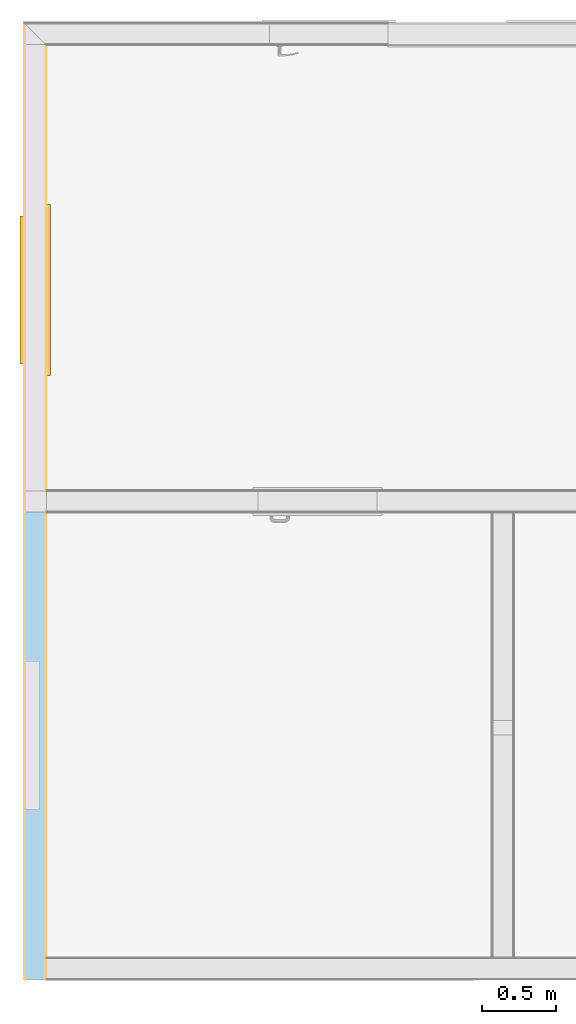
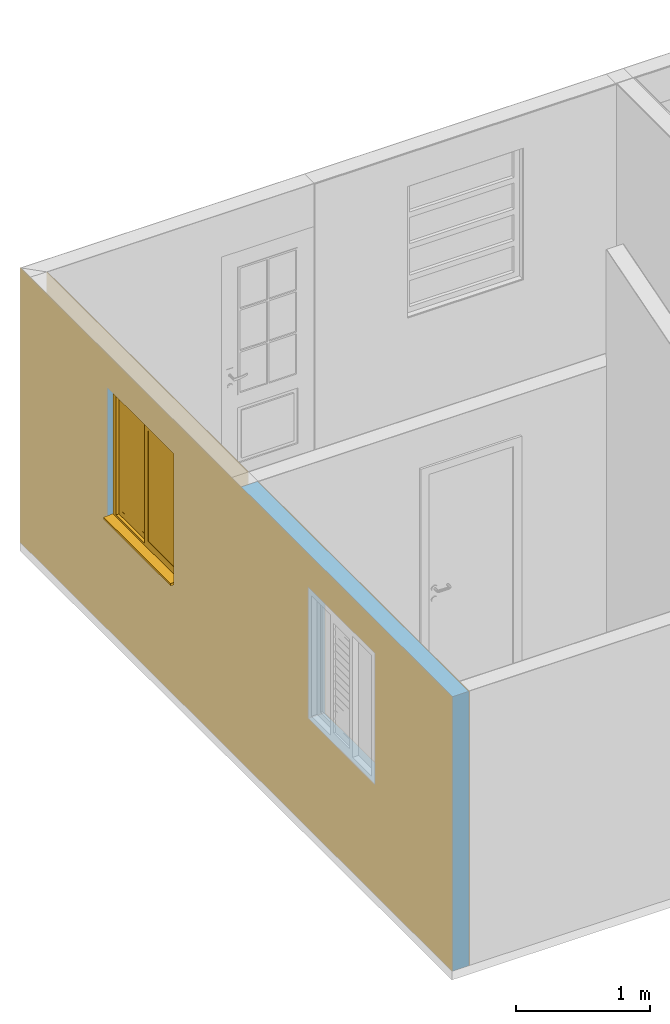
# One storey, part 6 of 7: 1 window, 2 openings, 1 element without a shape of its own, plus 3 elements that do not belong to this part.
"""IFC2X3 building model written with IfcOpenShell, lengths in millimetres."""

from ifc_helpers import new_model, entity, si_unit, converted_unit, derived_unit, money_unit, direction, frame, origin_with_axes, origin_2d_with_axis, place, context, subcontext, project, spatial, polyline, rectangle, outline, extrude, boolean, open_shell, faceted_brep, surface_model, material, type_object, element, fill, aggregate, save


model = new_model("IFC2X3")

# Units and contexts
model_context = context("Model", 3, precision=0.01, world=origin_with_axes(), true_north=direction((0.0, 1.0)))
body_context = subcontext(model_context, "Body", "Model", "MODEL_VIEW")
ifc_project = project(units=[si_unit("LENGTHUNIT", "METRE", prefix="MILLI"), si_unit("AREAUNIT", "SQUARE_METRE"), si_unit("VOLUMEUNIT", "CUBIC_METRE"), converted_unit("PLANEANGLEUNIT", "DEGREE", entity("IfcPlaneAngleMeasure", 0.0174532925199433), si_unit("PLANEANGLEUNIT", "RADIAN"), dimensions=[0, 0, 0, 0, 0, 0, 0]), money_unit("USD"), converted_unit("TIMEUNIT", "Year", entity("IfcTimeMeasure", 31557600.0), si_unit("TIMEUNIT", "SECOND"), dimensions=[0, 0, 1, 0, 0, 0, 0]), si_unit("MASSUNIT", "GRAM", prefix="KILO"), si_unit("THERMODYNAMICTEMPERATUREUNIT", "DEGREE_CELSIUS"), si_unit("LUMINOUSINTENSITYUNIT", "LUMEN"), si_unit("ENERGYUNIT", "JOULE", prefix="MEGA"), derived_unit("THERMALCONDUCTANCEUNIT", [(si_unit("POWERUNIT", "WATT"), 1), (si_unit("LENGTHUNIT", "METRE"), -1), (si_unit("THERMODYNAMICTEMPERATUREUNIT", "KELVIN"), -1)]), derived_unit("SPECIFICHEATCAPACITYUNIT", [(si_unit("ENERGYUNIT", "JOULE"), 1), (si_unit("MASSUNIT", "GRAM", prefix="KILO"), -1), (si_unit("THERMODYNAMICTEMPERATUREUNIT", "KELVIN"), -1)]), derived_unit("MASSDENSITYUNIT", [(si_unit("MASSUNIT", "GRAM", prefix="KILO"), 1), (si_unit("VOLUMEUNIT", "CUBIC_METRE"), -1)])], contexts=[model_context])

# Site, building, storey
site_placement = place(None, origin_with_axes())
site = spatial("IfcSite", under=ifc_project, at=site_placement, Name="Local", CompositionType="ELEMENT")
building_placement = place(site_placement, origin_with_axes())
building = spatial("IfcBuilding", under=site, at=building_placement, Name="Construção", CompositionType="ELEMENT")
storey_placement = place(building_placement, origin_with_axes())
storey = spatial("IfcBuildingStorey", under=building, at=storey_placement, Name="Pavimento Térreo", CompositionType="ELEMENT", Elevation=0.0)

# Window
window_style = type_object("IfcWindowStyle", Name="Janela 27", ConstructionType="NOTDEFINED", OperationType="DOUBLE_PANEL_VERTICAL", ParameterTakesPrecedence=False, Sizeable=False)
wall_placement = place(storey_placement, frame((0.0, 6450.000000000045, 0.0), z_axis=(0.0, 0.0, 1.0), x_axis=(0.0, -1.0, 0.0)))
opening_2_placement = place(wall_placement, frame((1800.000000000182, 0.0, 1000.0), z_axis=(0.0, 0.0, 1.0), x_axis=(1.0, 0.0, 0.0)))
window_placement = place(opening_2_placement, frame((500.0, 0.0, 0.0), z_axis=(0.0, 0.0, 1.0), x_axis=(-1.0, 0.0, 0.0)))
window = element("IfcWindow", 1, at=window_placement, inside=storey, type_object=window_style, Name="J02", ObjectType="WINDOW", OverallHeight=1200.0, OverallWidth=1000.0, context=body_context, shape_type="SurfaceModel", body=[
    faceted_brep([(0.0, -149.9999999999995, 0.0), (0.0, -99.99999999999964, 0.0), (1000.0, -100.0000000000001, 0.0), (1000.0, -149.9999999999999, 0.0), (0.0, -149.9999999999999, 1200.0), (0.0, -99.99999999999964, 1200.0), (1000.0, -100.0000000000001, 1200.0), (25.00000000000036, -99.99999999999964, 1175.0), (25.00000000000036, -99.99999999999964, 24.99999999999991), (974.9999999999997, -100.0000000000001, 24.99999999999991), (974.9999999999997, -100.0000000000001, 1175.0), (1000.0, -150.0000000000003, 1200.0), (974.9999999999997, -149.9999999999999, 24.99999999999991), (25.00000000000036, -149.9999999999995, 24.99999999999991), (25.00000000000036, -149.9999999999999, 1175.0), (974.9999999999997, -150.0000000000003, 1175.0)], [[[0, 1, 2, 3]], [[4, 5, 1, 0]], [[2, 1, 5, 6], [7, 8, 9, 10]], [[3, 2, 6, 11]], [[4, 0, 3, 11], [12, 13, 14, 15]], [[11, 6, 5, 4]], [[13, 8, 7, 14]], [[12, 9, 8, 13]], [[15, 10, 9, 12]], [[14, 7, 10, 15]]]),
    faceted_brep([(25.00000000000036, -174.9999999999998, 24.99999999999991), (-75.00000000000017, -174.9999999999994, -75.00000000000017), (-75.00000000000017, -149.9999999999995, -75.00000000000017), (25.00000000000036, -149.9999999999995, 24.99999999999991), (-75.00000000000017, -174.9999999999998, 1275.0), (25.00000000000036, -174.9999999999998, 1175.0), (-75.00000000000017, -149.9999999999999, 1275.0), (25.00000000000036, -149.9999999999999, 1175.0)], [[[0, 1, 2, 3]], [[4, 1, 0, 5]], [[1, 4, 6, 2]], [[3, 2, 6, 7]], [[5, 0, 3, 7]], [[4, 5, 7, 6]]]),
    faceted_brep([(974.9999999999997, -175.0000000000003, 1175.0), (1075.0, -175.0000000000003, 1275.0), (1075.0, -150.0000000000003, 1275.0), (974.9999999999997, -150.0000000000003, 1175.0), (1075.0, -174.9999999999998, -75.00000000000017), (974.9999999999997, -174.9999999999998, 24.99999999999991), (1075.0, -149.9999999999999, -75.00000000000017), (974.9999999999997, -149.9999999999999, 24.99999999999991)], [[[0, 1, 2, 3]], [[4, 1, 0, 5]], [[1, 4, 6, 2]], [[3, 2, 6, 7]], [[5, 0, 3, 7]], [[4, 5, 7, 6]]]),
    faceted_brep([(25.00000000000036, -174.9999999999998, 1175.0), (-75.00000000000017, -174.9999999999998, 1275.0), (-75.00000000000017, -149.9999999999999, 1275.0), (25.00000000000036, -149.9999999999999, 1175.0), (1075.0, -175.0000000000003, 1275.0), (974.9999999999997, -175.0000000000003, 1175.0), (1075.0, -150.0000000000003, 1275.0), (974.9999999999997, -150.0000000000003, 1175.0)], [[[0, 1, 2, 3]], [[4, 1, 0, 5]], [[1, 4, 6, 2]], [[3, 2, 6, 7]], [[5, 0, 3, 7]], [[4, 5, 7, 6]]]),
    faceted_brep([(0.0, -99.99999999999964, 1153.0), (46.99999999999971, -99.99999999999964, 1153.0), (46.99999999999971, -49.99999999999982, 1153.0), (0.0, -49.99999999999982, 1153.0), (46.99999999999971, -99.99999999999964, 46.99999999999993), (0.0, -99.99999999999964, 46.99999999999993), (46.99999999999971, -49.99999999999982, 46.99999999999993), (0.0, -49.99999999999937, 46.99999999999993)], [[[0, 1, 2, 3]], [[4, 1, 0, 5]], [[1, 4, 6, 2]], [[3, 2, 6, 7]], [[5, 0, 3, 7]], [[4, 5, 7, 6]]]),
    faceted_brep([(1000.0, -100.0000000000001, 46.99999999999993), (953.0000000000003, -100.0000000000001, 46.99999999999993), (953.0000000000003, -49.99999999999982, 46.99999999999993), (1000.0, -49.99999999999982, 46.99999999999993), (953.0000000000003, -100.0000000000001, 1153.0), (1000.0, -100.0000000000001, 1153.0), (953.0000000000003, -50.00000000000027, 1153.0), (1000.0, -50.00000000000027, 1153.0)], [[[0, 1, 2, 3]], [[4, 1, 0, 5]], [[1, 4, 6, 2]], [[3, 2, 6, 7]], [[5, 0, 3, 7]], [[4, 5, 7, 6]]]),
    faceted_brep([(1000.0, -100.0000000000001, 1153.0), (953.0000000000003, -100.0000000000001, 1153.0), (953.0000000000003, -50.00000000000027, 1153.0), (1000.0, -50.00000000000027, 1153.0), (46.99999999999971, -99.99999999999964, 1153.0), (1000.0, -100.0000000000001, 1200.0), (0.0, -99.99999999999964, 1200.0), (0.0, -99.99999999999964, 1153.0), (46.99999999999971, -49.99999999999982, 1153.0), (0.0, -49.99999999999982, 1153.0), (0.0, -49.99999999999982, 1200.0), (1000.0, -50.00000000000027, 1200.0)], [[[0, 1, 2, 3]], [[4, 1, 0, 5, 6, 7]], [[1, 4, 8, 2]], [[3, 2, 8, 9, 10, 11]], [[5, 0, 3, 11]], [[6, 5, 11, 10]], [[7, 6, 10, 9]], [[4, 7, 9, 8]]]),
    faceted_brep([(474.9999999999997, -100.0000000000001, 1103.0), (474.9999999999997, -100.0000000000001, 1153.0), (474.9999999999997, -74.99999999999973, 1153.0), (474.9999999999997, -74.99999999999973, 1103.0), (953.0000000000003, -100.0000000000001, 1153.0), (525.0000000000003, -100.0000000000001, 1103.0), (903.0000000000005, -100.0000000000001, 1103.0), (953.0000000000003, -100.0000000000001, 1103.0), (953.0000000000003, -75.00000000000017, 1153.0), (953.0000000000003, -75.00000000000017, 1103.0), (903.0000000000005, -75.00000000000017, 1103.0), (525.0000000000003, -74.99999999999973, 1103.0)], [[[0, 1, 2, 3]], [[4, 1, 0, 5, 6, 7]], [[1, 4, 8, 2]], [[3, 2, 8, 9, 10, 11]], [[5, 0, 3, 11]], [[6, 5, 11, 10]], [[7, 6, 10, 9]], [[4, 7, 9, 8]]]),
    faceted_brep([(46.99999999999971, -74.99999999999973, 1103.0), (46.99999999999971, -74.99999999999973, 1153.0), (46.99999999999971, -49.99999999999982, 1153.0), (46.99999999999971, -49.99999999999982, 1103.0), (525.0000000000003, -75.00000000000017, 1153.0), (96.99999999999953, -74.99999999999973, 1103.0), (474.9999999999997, -74.99999999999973, 1103.0), (525.0000000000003, -75.00000000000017, 1103.0), (525.0000000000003, -49.99999999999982, 1153.0), (525.0000000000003, -49.99999999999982, 1103.0), (474.9999999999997, -49.99999999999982, 1103.0), (96.99999999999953, -49.99999999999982, 1103.0)], [[[0, 1, 2, 3]], [[4, 1, 0, 5, 6, 7]], [[1, 4, 8, 2]], [[3, 2, 8, 9, 10, 11]], [[5, 0, 3, 11]], [[6, 5, 11, 10]], [[7, 6, 10, 9]], [[4, 7, 9, 8]]]),
    faceted_brep([(953.0000000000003, -100.0000000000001, 96.99999999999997), (953.0000000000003, -100.0000000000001, 46.99999999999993), (953.0000000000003, -74.99999999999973, 46.99999999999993), (953.0000000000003, -74.99999999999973, 96.99999999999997), (474.9999999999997, -99.99999999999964, 46.99999999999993), (903.0000000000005, -100.0000000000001, 96.99999999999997), (525.0000000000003, -99.99999999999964, 96.99999999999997), (474.9999999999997, -99.99999999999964, 96.99999999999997), (474.9999999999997, -74.99999999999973, 46.99999999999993), (474.9999999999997, -74.99999999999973, 96.99999999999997), (525.0000000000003, -74.99999999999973, 96.99999999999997), (903.0000000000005, -74.99999999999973, 96.99999999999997)], [[[0, 1, 2, 3]], [[4, 1, 0, 5, 6, 7]], [[1, 4, 8, 2]], [[3, 2, 8, 9, 10, 11]], [[5, 0, 3, 11]], [[6, 5, 11, 10]], [[7, 6, 10, 9]], [[4, 7, 9, 8]]]),
    faceted_brep([(525.0000000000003, -74.99999999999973, 96.99999999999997), (525.0000000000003, -74.99999999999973, 46.99999999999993), (525.0000000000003, -49.99999999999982, 46.99999999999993), (525.0000000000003, -49.99999999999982, 96.99999999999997), (46.99999999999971, -74.99999999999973, 46.99999999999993), (474.9999999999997, -74.99999999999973, 96.99999999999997), (96.99999999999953, -74.99999999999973, 96.99999999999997), (46.99999999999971, -74.99999999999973, 96.99999999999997), (46.99999999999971, -49.99999999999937, 46.99999999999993), (46.99999999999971, -49.99999999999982, 96.99999999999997), (96.99999999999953, -49.99999999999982, 96.99999999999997), (474.9999999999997, -49.99999999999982, 96.99999999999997)], [[[0, 1, 2, 3]], [[4, 1, 0, 5, 6, 7]], [[1, 4, 8, 2]], [[3, 2, 8, 9, 10, 11]], [[5, 0, 3, 11]], [[6, 5, 11, 10]], [[7, 6, 10, 9]], [[4, 7, 9, 8]]]),
    faceted_brep([(0.0, -49.99999999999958, 4.999999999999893), (0.0, -49.99999999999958, 30.00000000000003), (0.0, 0.0, 27.37961103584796), (0.0, 0.0, 5.000000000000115), (1000.0, -49.99999999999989, 4.999999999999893), (1000.0, -49.99999999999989, 30.00000000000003), (1000.0, 0.0, 27.37961103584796), (1000.0, 30.00000000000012, 25.80737765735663), (0.0, 30.00000000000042, 25.80737765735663), (0.0, 30.00000000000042, 5.000000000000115), (1000.0, 30.00000000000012, 5.000000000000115), (1000.0, 0.0, 5.000000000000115)], [[[0, 1, 2, 3]], [[4, 5, 1, 0]], [[1, 5, 6, 7, 8, 2]], [[3, 2, 8, 9]], [[0, 3, 9, 10, 11, 4]], [[11, 6, 5, 4]], [[10, 7, 6, 11]], [[9, 8, 7, 10]]]),
    faceted_brep([(0.0, -49.99999999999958, 0.0), (0.0, -49.99999999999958, 4.999999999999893), (0.0, 0.0, 4.999999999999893), (0.0, 0.0, 0.0), (1000.0, -49.99999999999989, 0.0), (1000.0, -49.99999999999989, 4.999999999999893), (1000.0, 0.0, 4.999999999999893), (1000.0, 0.0, 0.0)], [[[0, 1, 2, 3]], [[4, 5, 1, 0]], [[1, 5, 6, 2]], [[3, 2, 6, 7]], [[0, 3, 7, 4]], [[7, 6, 5, 4]]]),
    faceted_brep([(1075.0, -174.9999999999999, -75.00000000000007), (1075.0, -149.9999999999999, -75.00000000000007), (974.9999999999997, -149.9999999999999, 24.99999999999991), (974.9999999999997, -174.9999999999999, 24.99999999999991), (-75.00000000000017, -174.9999999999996, -75.00000000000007), (-75.00000000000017, -149.9999999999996, -75.00000000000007), (25.00000000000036, -149.9999999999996, 24.99999999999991), (25.00000000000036, -174.9999999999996, 24.99999999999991)], [[[0, 1, 2, 3]], [[4, 5, 1, 0]], [[1, 5, 6, 2]], [[3, 2, 6, 7]], [[0, 3, 7, 4]], [[7, 6, 5, 4]]]),
    faceted_brep([(46.99999999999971, -99.9999999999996, 46.99999999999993), (46.99999999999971, -49.9999999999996, 46.99999999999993), (0.0, -49.99999999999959, 46.99999999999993), (0.0, -99.99999999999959, 46.99999999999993), (953.0000000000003, -99.99999999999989, 46.99999999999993), (953.0000000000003, -49.99999999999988, 46.99999999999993), (1000.0, -49.99999999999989, 46.99999999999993), (1000.0, -49.99999999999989, 0.0), (0.0, -49.99999999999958, 0.0), (0.0, -99.99999999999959, 0.0), (1000.0, -99.9999999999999, 0.0), (1000.0, -99.9999999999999, 46.99999999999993)], [[[0, 1, 2, 3]], [[4, 5, 1, 0]], [[1, 5, 6, 7, 8, 2]], [[3, 2, 8, 9]], [[0, 3, 9, 10, 11, 4]], [[11, 6, 5, 4]], [[10, 7, 6, 11]], [[9, 8, 7, 10]]]),
    faceted_brep([(525.0000000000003, -99.99999999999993, 1103.0), (525.0000000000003, -74.99999999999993, 1103.0), (474.9999999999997, -74.9999999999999, 1103.0), (474.9999999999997, -99.99999999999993, 1103.0), (525.0000000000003, -99.99999999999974, 96.99999999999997), (525.0000000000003, -74.99999999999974, 96.99999999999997), (474.9999999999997, -74.99999999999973, 96.99999999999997), (474.9999999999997, -99.99999999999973, 96.99999999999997)], [[[0, 1, 2, 3]], [[4, 5, 1, 0]], [[1, 5, 6, 2]], [[3, 2, 6, 7]], [[0, 3, 7, 4]], [[7, 6, 5, 4]]]),
    faceted_brep([(903.0000000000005, -99.9999999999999, 96.99999999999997), (903.0000000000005, -74.99999999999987, 96.99999999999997), (953.0000000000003, -74.9999999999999, 96.99999999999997), (953.0000000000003, -99.9999999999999, 96.99999999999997), (903.0000000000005, -100.0000000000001, 1103.0), (903.0000000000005, -75.00000000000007, 1103.0), (953.0000000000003, -75.00000000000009, 1103.0), (953.0000000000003, -100.0000000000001, 1103.0)], [[[0, 1, 2, 3]], [[4, 5, 1, 0]], [[1, 5, 6, 2]], [[3, 2, 6, 7]], [[0, 3, 7, 4]], [[7, 6, 5, 4]]]),
    surface_model("IfcShellBasedSurfaceModel", [(525.0000000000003, -97.49999999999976, 96.99999999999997), (903.0000000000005, -97.49999999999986, 96.99999999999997), (903.0000000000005, -97.50000000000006, 1103.0), (525.0000000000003, -97.49999999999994, 1103.0)], [open_shell([[[0, 1, 2, 3]]])]),
    surface_model("IfcShellBasedSurfaceModel", [(525.0000000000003, -77.49999999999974, 96.99999999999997), (525.0000000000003, -77.49999999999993, 1103.0), (903.0000000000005, -77.50000000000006, 1103.0), (903.0000000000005, -77.49999999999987, 96.99999999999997)], [open_shell([[[0, 1, 2, 3]]])]),
    faceted_brep([(96.99999999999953, -74.9999999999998, 1103.0), (96.99999999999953, -49.9999999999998, 1103.0), (46.99999999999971, -49.99999999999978, 1103.0), (46.99999999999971, -74.99999999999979, 1103.0), (96.99999999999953, -74.99999999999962, 96.99999999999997), (96.99999999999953, -49.99999999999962, 96.99999999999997), (46.99999999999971, -49.9999999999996, 96.99999999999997), (46.99999999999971, -74.99999999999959, 96.99999999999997)], [[[0, 1, 2, 3]], [[4, 5, 1, 0]], [[1, 5, 6, 2]], [[3, 2, 6, 7]], [[0, 3, 7, 4]], [[7, 6, 5, 4]]]),
    faceted_brep([(474.9999999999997, -74.99999999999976, 96.99999999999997), (474.9999999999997, -49.99999999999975, 96.99999999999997), (525.0000000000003, -49.99999999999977, 96.99999999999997), (525.0000000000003, -74.99999999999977, 96.99999999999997), (474.9999999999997, -74.99999999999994, 1103.0), (474.9999999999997, -49.99999999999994, 1103.0), (525.0000000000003, -49.99999999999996, 1103.0), (525.0000000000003, -74.99999999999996, 1103.0)], [[[0, 1, 2, 3]], [[4, 5, 1, 0]], [[1, 5, 6, 2]], [[3, 2, 6, 7]], [[0, 3, 7, 4]], [[7, 6, 5, 4]]]),
    surface_model("IfcShellBasedSurfaceModel", [(96.99999999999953, -72.49999999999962, 96.99999999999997), (474.9999999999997, -72.49999999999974, 96.99999999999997), (474.9999999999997, -72.49999999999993, 1103.0), (96.99999999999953, -72.49999999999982, 1103.0)], [open_shell([[[0, 1, 2, 3]]])]),
    surface_model("IfcShellBasedSurfaceModel", [(96.99999999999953, -52.49999999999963, 96.99999999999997), (96.99999999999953, -52.49999999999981, 1103.0), (474.9999999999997, -52.49999999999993, 1103.0), (474.9999999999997, -52.49999999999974, 96.99999999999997)], [open_shell([[[0, 1, 2, 3]]])]),
])

# Wall, openings
wall_type = type_object("IfcWallType", Name="Alvenaria 140, Rebocada 2 Faces 150", PredefinedType="NOTDEFINED")
wall = element("IfcWall", 2, at=wall_placement, inside=storey, type_object=wall_type, Name="Parede-01")
opening_1_placement = place(wall_placement, frame((4800.000000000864, 0.0, 1000.0), z_axis=(0.0, 0.0, 1.0), x_axis=(1.0, 0.0, 0.0)))
element("IfcOpeningElement", 3, at=opening_1_placement, cuts=wall, Name="J03", context=body_context, shape_type="SweptSolid", body=[
    extrude(rectangle(XDim=1000.0, YDim=1200.0, at=origin_2d_with_axis()), frame((0.0, 150.0000000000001, 600.0000000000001), z_axis=(0.0, 1.0, 0.0), x_axis=(1.0, 0.0, 0.0)), (0.0, 0.0, -1.0), 450.0000000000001),
])
opening_2 = element("IfcOpeningElement", 4, at=opening_2_placement, cuts=wall, Name="J02", context=body_context, shape_type="SweptSolid", body=[
    extrude(rectangle(XDim=1000.0, YDim=1200.0, at=origin_2d_with_axis()), frame((0.0, 49.99999999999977, 600.0000000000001), z_axis=(0.0, -1.0, 0.0), x_axis=(-1.0, 0.0, 0.0)), (0.0, 0.0, -1.0), 250.0000000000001),
    extrude(rectangle(XDim=1000.0, YDim=1200.0, at=origin_2d_with_axis()), frame((0.0, 49.99999999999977, 600.0000000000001), z_axis=(0.0, 1.0, 0.0), x_axis=(-1.0, 0.0, 0.0)), (0.0, 0.0, -1.0), 200.0),
    extrude(rectangle(XDim=1150.0, YDim=1350.0, at=origin_2d_with_axis()), frame((0.0, 149.9999999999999, 599.9999999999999), z_axis=(0.0, -1.0, 0.0), x_axis=(-1.0, 0.0, 0.0)), (0.0, 0.0, -1.0), 200.0),
])

fill(opening_2, window)

# Covering
ifc_material_1 = material(Name="Reboco DEF")
covering_1_placement = place(wall_placement, origin_with_axes())
covering_1 = element("IfcCovering", 5, at=covering_1_placement, material=ifc_material_1, Name="Reboco DEF", PredefinedType="CLADDING", context=body_context, shape_type="CSG", body=[
    boolean("DIFFERENCE", boolean("DIFFERENCE", boolean("DIFFERENCE", extrude(outline(polyline([(0.0, 0.0), (6450.000000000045, 0.0), (6450.000000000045, 5.000000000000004), (0.0, 5.000000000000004), (0.0, 0.0)])), origin_with_axes(), (0.0, 0.0, 1.0), 2500.0), faceted_brep([(3295.000000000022, 145.0, 2300.0), (4.999999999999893, 145.0, 2300.0), (4.999999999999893, 145.0, 0.0), (0.0, 145.0, 0.0), (0.0, 145.0, 2500.0), (3295.000000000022, 144.9999999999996, 2500.0), (3295.000000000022, 4.999999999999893, 2300.0), (4.999999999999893, 5.000000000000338, 2300.0), (5.000000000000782, 4.999999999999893, 0.0), (0.0, 5.000000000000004, 0.0), (0.0, 5.000000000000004, 2500.0), (3295.000000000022, 4.999999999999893, 2500.0)], [[[0, 1, 2, 3, 4, 5]], [[1, 0, 6, 7]], [[2, 1, 7, 8]], [[2, 8, 9, 3]], [[4, 3, 9, 10]], [[11, 5, 4, 10]], [[5, 11, 6, 0]], [[6, 11, 10, 9, 8, 7]]])), faceted_brep([(3155.000000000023, 149.9999999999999, 2500.0), (3155.000000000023, 144.9999999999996, 2500.0), (3295.000000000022, 144.9999999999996, 2500.0), (3295.000000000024, 149.9999999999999, 2500.0), (3155.000000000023, 149.9999999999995, 0.0), (3155.000000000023, 144.9999999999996, 0.0), (3295.000000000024, 144.9999999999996, 0.0), (3295.000000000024, 149.9999999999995, 0.0)], [[[0, 1, 2, 3]], [[1, 0, 4, 5]], [[1, 5, 6, 2]], [[7, 3, 2, 6]], [[4, 0, 3, 7]], [[5, 4, 7, 6]]])), faceted_brep([(144.9999999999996, 145.0, 2500.0), (144.9999999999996, 150.0000000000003, 2500.0), (0.0, 150.0, 2500.0), (0.0, 145.0, 2500.0), (144.9999999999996, 149.9999999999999, 0.0), (144.9999999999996, 145.0, 0.0), (0.0, 150.0, 0.0), (0.0, 145.0, 0.0)], [[[0, 1, 2, 3]], [[4, 1, 0, 5]], [[1, 4, 6, 2]], [[2, 6, 7, 3]], [[5, 0, 3, 7]], [[4, 5, 7, 6]]])),
])

covering_2_placement = place(wall_placement, origin_with_axes())
covering_2 = element("IfcCovering", 6, at=covering_2_placement, material=ifc_material_1, Name="Reboco DEF", PredefinedType="CLADDING", context=body_context, shape_type="CSG", body=[
    boolean("DIFFERENCE", boolean("DIFFERENCE", boolean("DIFFERENCE", extrude(outline(polyline([(0.0, 145.0), (6450.000000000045, 145.0), (6450.000000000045, 150.0), (0.0, 150.0), (0.0, 145.0)])), origin_with_axes(), (0.0, 0.0, 1.0), 2500.0), faceted_brep([(3295.000000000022, 145.0, 2300.0), (4.999999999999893, 145.0, 2300.0), (4.999999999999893, 145.0, 0.0), (0.0, 145.0, 0.0), (0.0, 145.0, 2500.0), (3295.000000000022, 144.9999999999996, 2500.0), (3295.000000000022, 4.999999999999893, 2300.0), (4.999999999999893, 5.000000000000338, 2300.0), (5.000000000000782, 4.999999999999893, 0.0), (0.0, 5.000000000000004, 0.0), (0.0, 5.000000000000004, 2500.0), (3295.000000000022, 4.999999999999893, 2500.0)], [[[0, 1, 2, 3, 4, 5]], [[1, 0, 6, 7]], [[2, 1, 7, 8]], [[2, 8, 9, 3]], [[4, 3, 9, 10]], [[11, 5, 4, 10]], [[5, 11, 6, 0]], [[6, 11, 10, 9, 8, 7]]])), faceted_brep([(3155.000000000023, 149.9999999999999, 2500.0), (3155.000000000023, 144.9999999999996, 2500.0), (3295.000000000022, 144.9999999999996, 2500.0), (3295.000000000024, 149.9999999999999, 2500.0), (3155.000000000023, 149.9999999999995, 0.0), (3155.000000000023, 144.9999999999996, 0.0), (3295.000000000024, 144.9999999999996, 0.0), (3295.000000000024, 149.9999999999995, 0.0)], [[[0, 1, 2, 3]], [[1, 0, 4, 5]], [[1, 5, 6, 2]], [[7, 3, 2, 6]], [[4, 0, 3, 7]], [[5, 4, 7, 6]]])), faceted_brep([(144.9999999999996, 145.0, 2500.0), (144.9999999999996, 150.0000000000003, 2500.0), (0.0, 150.0, 2500.0), (0.0, 145.0, 2500.0), (144.9999999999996, 149.9999999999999, 0.0), (144.9999999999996, 145.0, 0.0), (0.0, 150.0, 0.0), (0.0, 145.0, 0.0)], [[[0, 1, 2, 3]], [[4, 1, 0, 5]], [[1, 4, 6, 2]], [[2, 6, 7, 3]], [[5, 0, 3, 7]], [[4, 5, 7, 6]]])),
])

# Building element part
ifc_material_2 = material(Name="Bloco de Concreto - Estrutural DEF")
building_element_part_placement = place(wall_placement, origin_with_axes())
building_element_part = element("IfcBuildingElementPart", 7, at=building_element_part_placement, material=ifc_material_2, Name="Bloco de Concreto - Estrutural DEF", context=body_context, shape_type="CSG", body=[
    boolean("DIFFERENCE", boolean("DIFFERENCE", boolean("DIFFERENCE", extrude(outline(polyline([(0.0, 4.999999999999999), (6450.000000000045, 4.999999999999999), (6450.000000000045, 145.0), (0.0, 145.0), (0.0, 4.999999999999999)])), origin_with_axes(), (0.0, 0.0, 1.0), 2500.0), faceted_brep([(3295.000000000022, 145.0, 2300.0), (4.999999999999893, 145.0, 2300.0), (4.999999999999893, 145.0, 0.0), (0.0, 145.0, 0.0), (0.0, 145.0, 2500.0), (3295.000000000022, 144.9999999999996, 2500.0), (3295.000000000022, 4.999999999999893, 2300.0), (4.999999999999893, 5.000000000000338, 2300.0), (5.000000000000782, 4.999999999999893, 0.0), (0.0, 5.000000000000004, 0.0), (0.0, 5.000000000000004, 2500.0), (3295.000000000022, 4.999999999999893, 2500.0)], [[[0, 1, 2, 3, 4, 5]], [[1, 0, 6, 7]], [[2, 1, 7, 8]], [[2, 8, 9, 3]], [[4, 3, 9, 10]], [[11, 5, 4, 10]], [[5, 11, 6, 0]], [[6, 11, 10, 9, 8, 7]]])), faceted_brep([(3155.000000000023, 149.9999999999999, 2500.0), (3155.000000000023, 144.9999999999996, 2500.0), (3295.000000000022, 144.9999999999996, 2500.0), (3295.000000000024, 149.9999999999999, 2500.0), (3155.000000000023, 149.9999999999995, 0.0), (3155.000000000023, 144.9999999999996, 0.0), (3295.000000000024, 144.9999999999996, 0.0), (3295.000000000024, 149.9999999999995, 0.0)], [[[0, 1, 2, 3]], [[1, 0, 4, 5]], [[1, 5, 6, 2]], [[7, 3, 2, 6]], [[4, 0, 3, 7]], [[5, 4, 7, 6]]])), faceted_brep([(144.9999999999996, 145.0, 2500.0), (144.9999999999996, 150.0000000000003, 2500.0), (0.0, 150.0, 2500.0), (0.0, 145.0, 2500.0), (144.9999999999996, 149.9999999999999, 0.0), (144.9999999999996, 145.0, 0.0), (0.0, 150.0, 0.0), (0.0, 145.0, 0.0)], [[[0, 1, 2, 3]], [[4, 1, 0, 5]], [[1, 4, 6, 2]], [[2, 6, 7, 3]], [[5, 0, 3, 7]], [[4, 5, 7, 6]]])),
])

aggregate(wall, [covering_1, building_element_part, covering_2])

save(model, "model.ifc")
